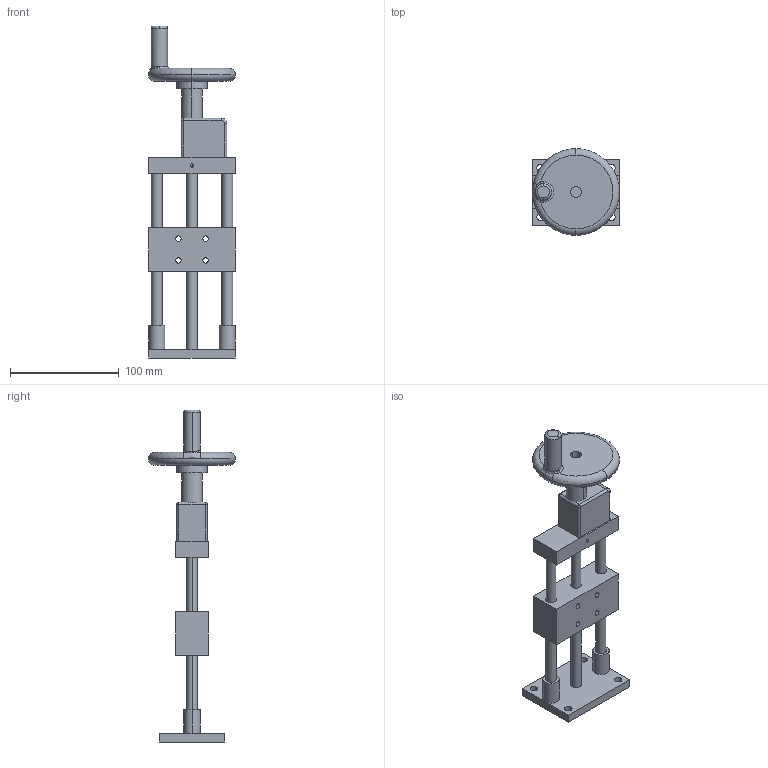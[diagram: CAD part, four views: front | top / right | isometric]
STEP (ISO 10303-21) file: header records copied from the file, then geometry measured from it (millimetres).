
FILE_DESCRIPTION (( 'STEP AP203' ), '1' );
FILE_NAME ('PT-SD502S.STEP', '2022-04-16T03:04:49', ( '' ), ( '' ), 'SwSTEP 2.0', 'SolidWorks 2017', '' );
FILE_SCHEMA (( 'CONFIG_CONTROL_DESIGN' ));
Length unit declared in the file: millimetre
Products named in the file (3): PT-SD502S; 502S; 忒謫2
Assembly tree (2 placements, depth 2):
  PT-SD502S
    502S
    忒謫2
Bounding box: 80 x 80 x 306 mm (x, y, z)
Volume: 313601.1 mm3; surface area: 68804.4 mm2
Topology: 2 solids, 2 shells, 101 faces, 248 edges, 155 vertices
Faces by surface type: cylinder 51, plane 30, torus 12, bspline 4, cone 2, sphere 2
Entity records: 3623 total; most frequent: CARTESIAN_POINT 815, DIRECTION 574, ORIENTED_EDGE 488, EDGE_CURVE 244, AXIS2_PLACEMENT_3D 236, VERTEX_POINT 155, EDGE_LOOP 135, CIRCLE 134
